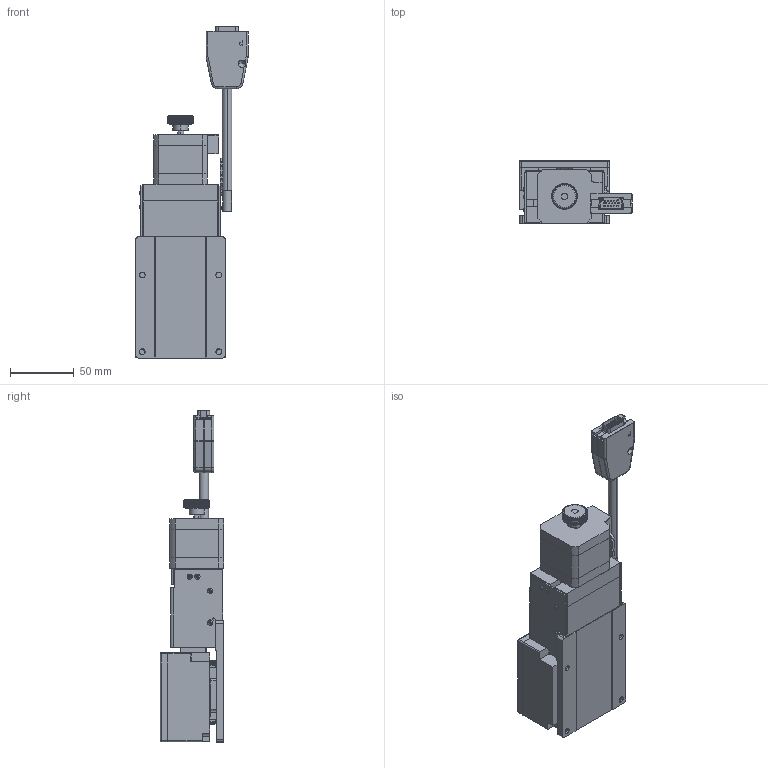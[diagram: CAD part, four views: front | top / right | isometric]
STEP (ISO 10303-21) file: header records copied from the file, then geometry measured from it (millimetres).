
FILE_DESCRIPTION (( 'STEP AP203' ), '1' );
FILE_NAME ('AZ7010-A6HP_defeature.STEP', '2024-02-15T03:32:09', ( '' ), ( '' ), 'SwSTEP 2.0', 'SolidWorks 2019', '' );
FILE_SCHEMA (( 'CONFIG_CONTROL_DESIGN' ));
Products named in the file (4): Group2^AZ7010-A6HP_defeature_GMT; Group1^AZ7010-A6HP_defeature_GMT; AZ7010-A6HP_defeature; Group3^AZ7010-A6HP_defeature_GMT
Assembly tree (3 placements, depth 2):
  AZ7010-A6HP_defeature
    Group1^AZ7010-A6HP_defeature_GMT
    Group2^AZ7010-A6HP_defeature_GMT
    Group3^AZ7010-A6HP_defeature_GMT
Bounding box: 88 x 50 x 260.1 mm (x, y, z)
Volume: 369292.1 mm3; surface area: 120307 mm2
Topology: 4 solids, 4 shells, 7880 faces, 20418 edges, 13004 vertices
Faces by surface type: plane 4828, bspline 1729, cylinder 873, torus 332, cone 98, sphere 20
Entity records: 293392 total; most frequent: CARTESIAN_POINT 114991, ORIENTED_EDGE 40676, DIRECTION 29770, EDGE_CURVE 20338, VERTEX_POINT 13004, LINE 12794, VECTOR 12794, EDGE_LOOP 8540
